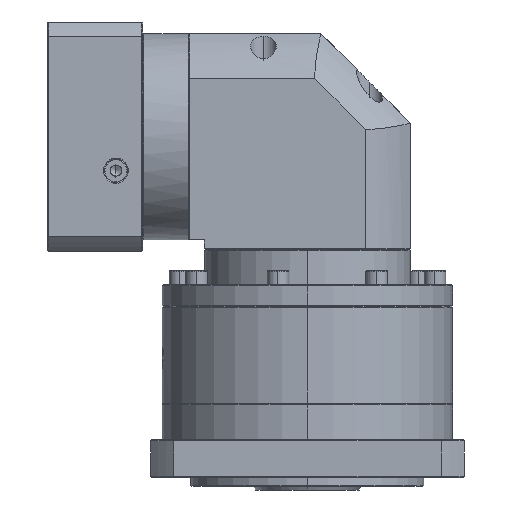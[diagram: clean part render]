
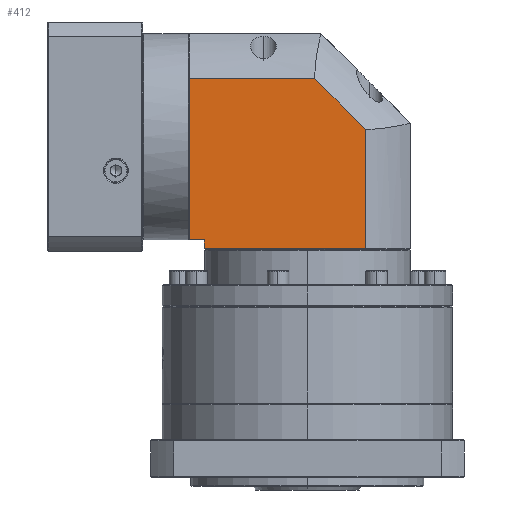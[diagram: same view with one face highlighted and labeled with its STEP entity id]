
A CAD part, left-side view. The second image highlights one B-rep face of the part: STEP entity #412.
In plain terms, the highlighted planar face has unit normal (-1, 0, 0).
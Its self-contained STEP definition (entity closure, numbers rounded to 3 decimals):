
#412 = ADVANCED_FACE ( 'NONE', ( #6909 ), #86571, .F. ) ;
#2832 = DIRECTION ( 'NONE',  ( 1., 0., 0. ) ) ;
#4107 = CARTESIAN_POINT ( 'NONE',  ( -213.093, 28.844, -49.796 ) ) ;
#4616 = CARTESIAN_POINT ( 'NONE',  ( -213.093, 143.844, -44.796 ) ) ;
#6909 = FACE_OUTER_BOUND ( 'NONE', #121617, .T. ) ;
#10232 = EDGE_CURVE ( 'NONE', #13001, #129333, #60846, .T. ) ;
#10323 = VECTOR ( 'NONE', #59516, 1000. ) ;
#12094 = DIRECTION ( 'NONE',  ( 0., -1., 0. ) ) ;
#13001 = VERTEX_POINT ( 'NONE', #102722 ) ;
#14409 = VECTOR ( 'NONE', #83310, 1000. ) ;
#16051 = ORIENTED_EDGE ( 'NONE', *, *, #121388, .F. ) ;
#19660 = ORIENTED_EDGE ( 'NONE', *, *, #80362, .F. ) ;
#19892 = VECTOR ( 'NONE', #70391, 1000. ) ;
#20028 = ORIENTED_EDGE ( 'NONE', *, *, #10232, .T. ) ;
#22327 = CARTESIAN_POINT ( 'NONE',  ( -213.093, 28.844, -56.296 ) ) ;
#26156 = AXIS2_PLACEMENT_3D ( 'NONE', #22327, #2832, #12094 ) ;
#31523 = CARTESIAN_POINT ( 'NONE',  ( -213.093, 143.844, -44.796 ) ) ;
#34095 = DIRECTION ( 'NONE',  ( 0., -1., 0. ) ) ;
#36969 = LINE ( 'NONE', #111237, #10323 ) ;
#37095 = LINE ( 'NONE', #4107, #101531 ) ;
#38486 = CARTESIAN_POINT ( 'NONE',  ( -213.093, 82.282, 45.103 ) ) ;
#42758 = EDGE_CURVE ( 'NONE', #13001, #130033, #45953, .T. ) ;
#44939 = LINE ( 'NONE', #52147, #64809 ) ;
#45953 = LINE ( 'NONE', #127685, #80651 ) ;
#48812 = VERTEX_POINT ( 'NONE', #124565 ) ;
#48819 = VERTEX_POINT ( 'NONE', #114393 ) ;
#50037 = CARTESIAN_POINT ( 'NONE',  ( -213.093, 152.244, 45.103 ) ) ;
#51418 = EDGE_CURVE ( 'NONE', #129333, #48819, #36969, .T. ) ;
#52147 = CARTESIAN_POINT ( 'NONE',  ( -213.093, 53.944, -56.296 ) ) ;
#57872 = VERTEX_POINT ( 'NONE', #80409 ) ;
#59516 = DIRECTION ( 'NONE',  ( 0., 0., -1. ) ) ;
#60846 = LINE ( 'NONE', #31523, #14409 ) ;
#61054 = ORIENTED_EDGE ( 'NONE', *, *, #134462, .F. ) ;
#64809 = VECTOR ( 'NONE', #136535, 1000. ) ;
#66942 = CARTESIAN_POINT ( 'NONE',  ( -213.093, 28.844, 45.103 ) ) ;
#67949 = LINE ( 'NONE', #38486, #19892 ) ;
#70391 = DIRECTION ( 'NONE',  ( 0., -0.707, -0.707 ) ) ;
#70930 = VECTOR ( 'NONE', #34095, 1000. ) ;
#74294 = LINE ( 'NONE', #66942, #70930 ) ;
#80362 = EDGE_CURVE ( 'NONE', #57872, #48819, #37095, .T. ) ;
#80409 = CARTESIAN_POINT ( 'NONE',  ( -213.093, 53.944, -49.796 ) ) ;
#80651 = VECTOR ( 'NONE', #106996, 1000. ) ;
#81911 = CARTESIAN_POINT ( 'NONE',  ( -213.093, 53.944, 16.765 ) ) ;
#83310 = DIRECTION ( 'NONE',  ( 0., -1., 0. ) ) ;
#86571 = PLANE ( 'NONE',  #26156 ) ;
#96321 = EDGE_CURVE ( 'NONE', #48812, #130097, #67949, .T. ) ;
#99622 = ORIENTED_EDGE ( 'NONE', *, *, #96321, .F. ) ;
#100792 = DIRECTION ( 'NONE',  ( 0., 1., 0. ) ) ;
#101531 = VECTOR ( 'NONE', #100792, 1000. ) ;
#102722 = CARTESIAN_POINT ( 'NONE',  ( -213.093, 152.244, -44.796 ) ) ;
#103632 = ORIENTED_EDGE ( 'NONE', *, *, #51418, .T. ) ;
#106996 = DIRECTION ( 'NONE',  ( 0., 0., 1. ) ) ;
#111237 = CARTESIAN_POINT ( 'NONE',  ( -213.093, 143.844, 70.204 ) ) ;
#114393 = CARTESIAN_POINT ( 'NONE',  ( -213.093, 143.844, -49.796 ) ) ;
#115239 = ORIENTED_EDGE ( 'NONE', *, *, #42758, .F. ) ;
#121388 = EDGE_CURVE ( 'NONE', #130097, #57872, #44939, .T. ) ;
#121617 = EDGE_LOOP ( 'NONE', ( #16051, #99622, #61054, #115239, #20028, #103632, #19660 ) ) ;
#124565 = CARTESIAN_POINT ( 'NONE',  ( -213.093, 82.282, 45.103 ) ) ;
#127685 = CARTESIAN_POINT ( 'NONE',  ( -213.093, 152.244, -56.296 ) ) ;
#129333 = VERTEX_POINT ( 'NONE', #4616 ) ;
#130033 = VERTEX_POINT ( 'NONE', #50037 ) ;
#130097 = VERTEX_POINT ( 'NONE', #81911 ) ;
#134462 = EDGE_CURVE ( 'NONE', #130033, #48812, #74294, .T. ) ;
#136535 = DIRECTION ( 'NONE',  ( 0., 0., -1. ) ) ;
